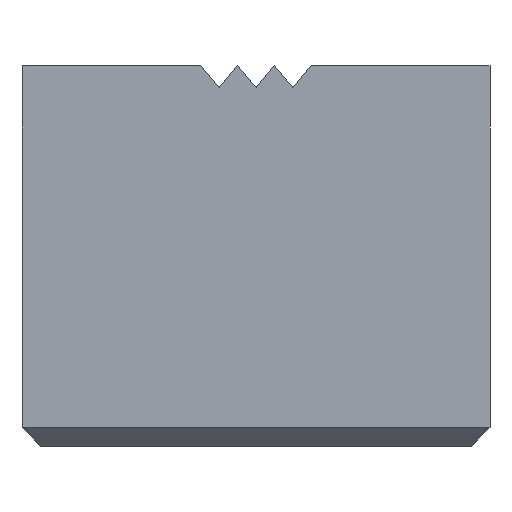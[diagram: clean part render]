
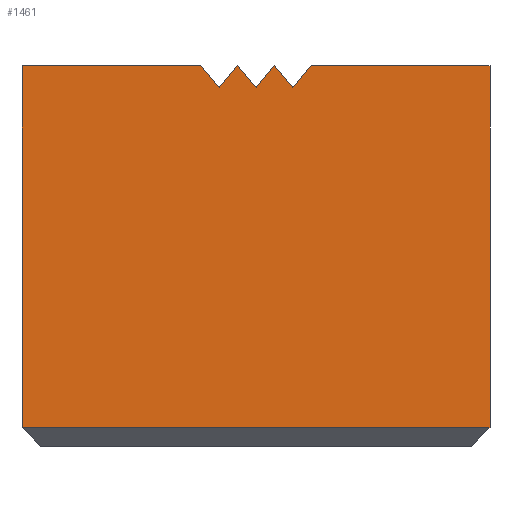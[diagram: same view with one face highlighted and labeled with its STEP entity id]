
A CAD part, front view. The second image highlights one B-rep face of the part: STEP entity #1461.
In plain terms, the highlighted planar face has unit normal (0, -1, 0).
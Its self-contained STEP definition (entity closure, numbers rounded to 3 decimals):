
#437=CARTESIAN_POINT('',(-4.765,-4.765,-2.675));
#438=VERTEX_POINT('',#437);
#445=CARTESIAN_POINT('',(-4.765,-4.765,7.145));
#446=VERTEX_POINT('',#445);
#447=CARTESIAN_POINT('',(-4.765,-4.765,-2.675));
#448=DIRECTION('',(0.0,0.0,1.0));
#449=VECTOR('',#448,9.82);
#450=LINE('',#447,#449);
#451=EDGE_CURVE('',#438,#446,#450,.T.);
#491=CARTESIAN_POINT('',(3.082,-4.765,7.145));
#492=VERTEX_POINT('',#491);
#499=CARTESIAN_POINT('',(7.935,-4.765,7.145));
#500=VERTEX_POINT('',#499);
#501=CARTESIAN_POINT('',(7.935,-4.765,7.145));
#502=DIRECTION('',(-1.0,0.0,0.0));
#503=VECTOR('',#502,4.853);
#504=LINE('',#501,#503);
#505=EDGE_CURVE('',#500,#492,#504,.T.);
#584=CARTESIAN_POINT('',(2.585,-4.765,6.545));
#585=VERTEX_POINT('',#584);
#592=CARTESIAN_POINT('',(3.082,-4.765,7.145));
#593=DIRECTION('',(-0.638,0.0,-0.77));
#594=VECTOR('',#593,0.779);
#595=LINE('',#592,#594);
#596=EDGE_CURVE('',#492,#585,#595,.T.);
#608=CARTESIAN_POINT('',(2.082,-4.765,7.145));
#609=VERTEX_POINT('',#608);
#616=CARTESIAN_POINT('',(2.585,-4.765,6.545));
#617=DIRECTION('',(-0.643,0.0,0.766));
#618=VECTOR('',#617,0.783);
#619=LINE('',#616,#618);
#620=EDGE_CURVE('',#585,#609,#619,.T.);
#948=CARTESIAN_POINT('',(7.935,-4.765,-2.675));
#949=VERTEX_POINT('',#948);
#950=CARTESIAN_POINT('',(7.935,-4.765,-2.675));
#951=DIRECTION('',(0.0,0.0,1.0));
#952=VECTOR('',#951,9.82);
#953=LINE('',#950,#952);
#954=EDGE_CURVE('',#949,#500,#953,.T.);
#1348=CARTESIAN_POINT('',(0.585,-4.765,6.545));
#1349=VERTEX_POINT('',#1348);
#1356=CARTESIAN_POINT('',(1.082,-4.765,7.145));
#1357=VERTEX_POINT('',#1356);
#1358=CARTESIAN_POINT('',(1.082,-4.765,7.145));
#1359=DIRECTION('',(-0.638,0.0,-0.77));
#1360=VECTOR('',#1359,0.779);
#1361=LINE('',#1358,#1360);
#1362=EDGE_CURVE('',#1357,#1349,#1361,.T.);
#1379=CARTESIAN_POINT('',(0.082,-4.765,7.145));
#1380=VERTEX_POINT('',#1379);
#1387=CARTESIAN_POINT('',(0.585,-4.765,6.545));
#1388=DIRECTION('',(-0.643,0.0,0.766));
#1389=VECTOR('',#1388,0.783);
#1390=LINE('',#1387,#1389);
#1391=EDGE_CURVE('',#1349,#1380,#1390,.T.);
#1421=CARTESIAN_POINT('',(4.765,-4.765,-3.175));
#1422=DIRECTION('',(0.0,-1.0,0.0));
#1423=DIRECTION('',(0.0,0.0,-1.0));
#1424=AXIS2_PLACEMENT_3D('',#1421,#1422,#1423);
#1425=PLANE('',#1424);
#1426=ORIENTED_EDGE('',*,*,#1362,.T.);
#1427=ORIENTED_EDGE('',*,*,#1391,.T.);
#1428=CARTESIAN_POINT('',(0.082,-4.765,7.145));
#1429=DIRECTION('',(-1.0,0.0,0.0));
#1430=VECTOR('',#1429,4.847);
#1431=LINE('',#1428,#1430);
#1432=EDGE_CURVE('',#1380,#446,#1431,.T.);
#1433=ORIENTED_EDGE('',*,*,#1432,.T.);
#1434=ORIENTED_EDGE('',*,*,#451,.F.);
#1435=CARTESIAN_POINT('',(7.935,-4.765,-2.675));
#1436=DIRECTION('',(-1.0,0.0,0.0));
#1437=VECTOR('',#1436,12.7);
#1438=LINE('',#1435,#1437);
#1439=EDGE_CURVE('',#949,#438,#1438,.T.);
#1440=ORIENTED_EDGE('',*,*,#1439,.F.);
#1441=ORIENTED_EDGE('',*,*,#954,.T.);
#1442=ORIENTED_EDGE('',*,*,#505,.T.);
#1443=ORIENTED_EDGE('',*,*,#596,.T.);
#1444=ORIENTED_EDGE('',*,*,#620,.T.);
#1445=CARTESIAN_POINT('',(1.585,-4.765,6.545));
#1446=VERTEX_POINT('',#1445);
#1447=CARTESIAN_POINT('',(2.082,-4.765,7.145));
#1448=DIRECTION('',(-0.638,0.0,-0.77));
#1449=VECTOR('',#1448,0.779);
#1450=LINE('',#1447,#1449);
#1451=EDGE_CURVE('',#609,#1446,#1450,.T.);
#1452=ORIENTED_EDGE('',*,*,#1451,.T.);
#1453=CARTESIAN_POINT('',(1.585,-4.765,6.545));
#1454=DIRECTION('',(-0.643,0.0,0.766));
#1455=VECTOR('',#1454,0.783);
#1456=LINE('',#1453,#1455);
#1457=EDGE_CURVE('',#1446,#1357,#1456,.T.);
#1458=ORIENTED_EDGE('',*,*,#1457,.T.);
#1459=EDGE_LOOP('',(#1426,#1427,#1433,#1434,#1440,#1441,#1442,#1443,#1444,#1452,#1458));
#1460=FACE_OUTER_BOUND('',#1459,.T.);
#1461=ADVANCED_FACE('',(#1460),#1425,.T.);
